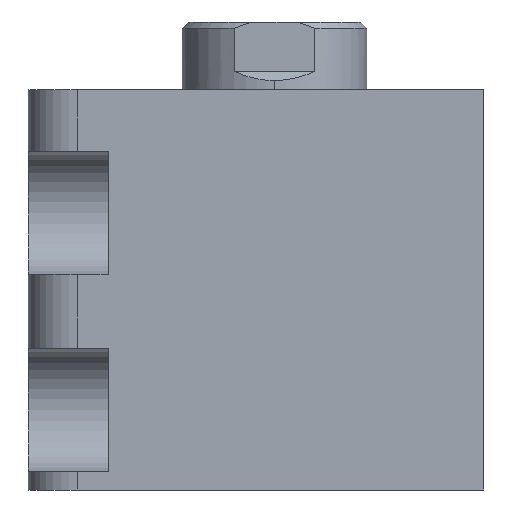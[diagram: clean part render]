
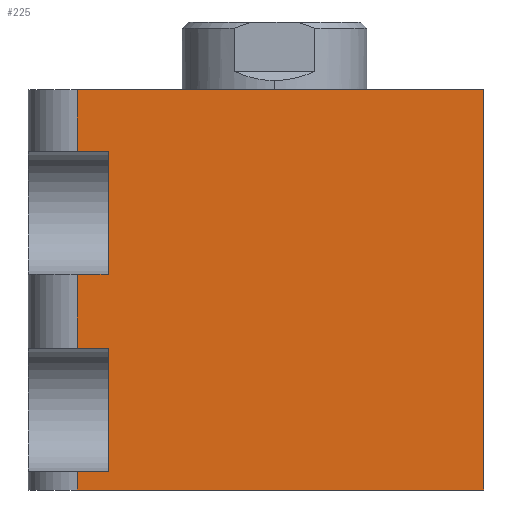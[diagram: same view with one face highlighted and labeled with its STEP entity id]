
A CAD part, left-side view. The second image highlights one B-rep face of the part: STEP entity #225.
In plain terms, the highlighted planar face has unit normal (-1, 0, 0).
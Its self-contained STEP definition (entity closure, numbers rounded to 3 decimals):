
#5 = CARTESIAN_POINT ( 'NONE',  ( -47., 29., 65. ) ) ;
#6 = DIRECTION ( 'NONE',  ( 0., 0., -1. ) ) ;
#10 = CARTESIAN_POINT ( 'NONE',  ( -47., 24., 35. ) ) ;
#11 = DIRECTION ( 'NONE',  ( 0., 1., 0. ) ) ;
#20 = CARTESIAN_POINT ( 'NONE',  ( -47., 24., 23. ) ) ;
#21 = DIRECTION ( 'NONE',  ( 0., 1., 0. ) ) ;
#24 = DIRECTION ( 'NONE',  ( 0., -1., 0. ) ) ;
#28 = CARTESIAN_POINT ( 'NONE',  ( -47., 37., 0. ) ) ;
#48 = CARTESIAN_POINT ( 'NONE',  ( -47., 29., 65. ) ) ;
#49 = DIRECTION ( 'NONE',  ( 0., 0., -1. ) ) ;
#60 = CARTESIAN_POINT ( 'NONE',  ( -47., 24., 35. ) ) ;
#61 = DIRECTION ( 'NONE',  ( 0., 0., 1. ) ) ;
#70 = CARTESIAN_POINT ( 'NONE',  ( -47., 29., 65. ) ) ;
#71 = DIRECTION ( 'NONE',  ( 0., 0., -1. ) ) ;
#225 = ADVANCED_FACE ( 'NONE', ( #1746 ), #2211, .F. ) ;
#444 = EDGE_LOOP ( 'NONE', ( #1060, #2449, #2469, #2432, #2437, #2538, #2528, #2428, #2419, #2529, #2429, #2485 ) ) ;
#480 = VERTEX_POINT ( 'NONE', #2108 ) ;
#498 = VERTEX_POINT ( 'NONE', #2094 ) ;
#541 = VERTEX_POINT ( 'NONE', #1155 ) ;
#545 = VERTEX_POINT ( 'NONE', #1146 ) ;
#556 = VERTEX_POINT ( 'NONE', #1229 ) ;
#574 = VERTEX_POINT ( 'NONE', #1182 ) ;
#577 = VERTEX_POINT ( 'NONE', #1141 ) ;
#578 = VERTEX_POINT ( 'NONE', #1183 ) ;
#599 = VERTEX_POINT ( 'NONE', #1277 ) ;
#604 = CARTESIAN_POINT ( 'NONE',  ( -47., 24., 3. ) ) ;
#607 = DIRECTION ( 'NONE',  ( 0., 0., 1. ) ) ;
#622 = CARTESIAN_POINT ( 'NONE',  ( -47., 24., 3. ) ) ;
#639 = CARTESIAN_POINT ( 'NONE',  ( -47., 24., 3. ) ) ;
#650 = CARTESIAN_POINT ( 'NONE',  ( -47., 29., 35. ) ) ;
#719 = CARTESIAN_POINT ( 'NONE',  ( -47., 29., 23. ) ) ;
#733 = DIRECTION ( 'NONE',  ( 0., 1., 0. ) ) ;
#828 = AXIS2_PLACEMENT_3D ( 'NONE', #2191, #2277, #2112 ) ;
#1060 = ORIENTED_EDGE ( 'NONE', *, *, #2546, .F. ) ;
#1141 = CARTESIAN_POINT ( 'NONE',  ( -47., -37., 65. ) ) ;
#1146 = CARTESIAN_POINT ( 'NONE',  ( -47., 24., 23. ) ) ;
#1155 = CARTESIAN_POINT ( 'NONE',  ( -47., 29., 65. ) ) ;
#1182 = CARTESIAN_POINT ( 'NONE',  ( -47., 24., 35. ) ) ;
#1183 = CARTESIAN_POINT ( 'NONE',  ( -47., 24., 55. ) ) ;
#1229 = CARTESIAN_POINT ( 'NONE',  ( -47., 29., 3. ) ) ;
#1277 = CARTESIAN_POINT ( 'NONE',  ( -47., 29., 55. ) ) ;
#1302 = EDGE_CURVE ( 'NONE', #578, #599, #1536, .T. ) ;
#1312 = EDGE_CURVE ( 'NONE', #541, #577, #1525, .T. ) ;
#1316 = EDGE_CURVE ( 'NONE', #577, #480, #1520, .T. ) ;
#1327 = CARTESIAN_POINT ( 'NONE',  ( -47., -37., 65. ) ) ;
#1340 = DIRECTION ( 'NONE',  ( 0., -1., 0. ) ) ;
#1343 = DIRECTION ( 'NONE',  ( 0., 1., 0. ) ) ;
#1358 = CARTESIAN_POINT ( 'NONE',  ( -47., 37., 65. ) ) ;
#1412 = CARTESIAN_POINT ( 'NONE',  ( -47., 24., 55. ) ) ;
#1419 = DIRECTION ( 'NONE',  ( 0., 0., -1. ) ) ;
#1455 = VECTOR ( 'NONE', #71, 1000. ) ;
#1457 = VECTOR ( 'NONE', #61, 1000. ) ;
#1458 = LINE ( 'NONE', #70, #1455 ) ;
#1459 = LINE ( 'NONE', #60, #1457 ) ;
#1465 = VECTOR ( 'NONE', #49, 1000. ) ;
#1467 = LINE ( 'NONE', #48, #1465 ) ;
#1477 = VECTOR ( 'NONE', #24, 1000. ) ;
#1483 = VECTOR ( 'NONE', #21, 1000. ) ;
#1485 = VECTOR ( 'NONE', #11, 1000. ) ;
#1486 = LINE ( 'NONE', #20, #1483 ) ;
#1487 = LINE ( 'NONE', #10, #1485 ) ;
#1490 = VECTOR ( 'NONE', #6, 1000. ) ;
#1492 = LINE ( 'NONE', #5, #1490 ) ;
#1496 = LINE ( 'NONE', #28, #1477 ) ;
#1498 = VECTOR ( 'NONE', #607, 1000. ) ;
#1505 = LINE ( 'NONE', #604, #1498 ) ;
#1508 = VECTOR ( 'NONE', #733, 1000. ) ;
#1513 = LINE ( 'NONE', #622, #1508 ) ;
#1519 = VECTOR ( 'NONE', #1419, 1000. ) ;
#1520 = LINE ( 'NONE', #1327, #1519 ) ;
#1524 = VECTOR ( 'NONE', #1340, 1000. ) ;
#1525 = LINE ( 'NONE', #1358, #1524 ) ;
#1534 = VECTOR ( 'NONE', #1343, 1000. ) ;
#1536 = LINE ( 'NONE', #1412, #1534 ) ;
#1669 = VERTEX_POINT ( 'NONE', #650 ) ;
#1737 = VERTEX_POINT ( 'NONE', #719 ) ;
#1746 = FACE_OUTER_BOUND ( 'NONE', #444, .T. ) ;
#1790 = VERTEX_POINT ( 'NONE', #639 ) ;
#2094 = CARTESIAN_POINT ( 'NONE',  ( -47., 29., 0. ) ) ;
#2108 = CARTESIAN_POINT ( 'NONE',  ( -47., -37., 0. ) ) ;
#2112 = DIRECTION ( 'NONE',  ( 0., 1., 0. ) ) ;
#2191 = CARTESIAN_POINT ( 'NONE',  ( -47., 37., 65. ) ) ;
#2211 = PLANE ( 'NONE',  #828 ) ;
#2277 = DIRECTION ( 'NONE',  ( 1., 0., 0. ) ) ;
#2419 = ORIENTED_EDGE ( 'NONE', *, *, #2575, .F. ) ;
#2428 = ORIENTED_EDGE ( 'NONE', *, *, #1302, .F. ) ;
#2429 = ORIENTED_EDGE ( 'NONE', *, *, #2553, .T. ) ;
#2432 = ORIENTED_EDGE ( 'NONE', *, *, #2561, .T. ) ;
#2437 = ORIENTED_EDGE ( 'NONE', *, *, #1316, .F. ) ;
#2449 = ORIENTED_EDGE ( 'NONE', *, *, #2544, .T. ) ;
#2469 = ORIENTED_EDGE ( 'NONE', *, *, #2576, .T. ) ;
#2485 = ORIENTED_EDGE ( 'NONE', *, *, #2557, .F. ) ;
#2528 = ORIENTED_EDGE ( 'NONE', *, *, #2570, .T. ) ;
#2529 = ORIENTED_EDGE ( 'NONE', *, *, #2556, .T. ) ;
#2538 = ORIENTED_EDGE ( 'NONE', *, *, #1312, .F. ) ;
#2544 = EDGE_CURVE ( 'NONE', #1790, #556, #1513, .T. ) ;
#2546 = EDGE_CURVE ( 'NONE', #1790, #545, #1505, .T. ) ;
#2553 = EDGE_CURVE ( 'NONE', #1669, #1737, #1492, .T. ) ;
#2556 = EDGE_CURVE ( 'NONE', #574, #1669, #1487, .T. ) ;
#2557 = EDGE_CURVE ( 'NONE', #545, #1737, #1486, .T. ) ;
#2561 = EDGE_CURVE ( 'NONE', #498, #480, #1496, .T. ) ;
#2570 = EDGE_CURVE ( 'NONE', #541, #599, #1467, .T. ) ;
#2575 = EDGE_CURVE ( 'NONE', #574, #578, #1459, .T. ) ;
#2576 = EDGE_CURVE ( 'NONE', #556, #498, #1458, .T. ) ;
